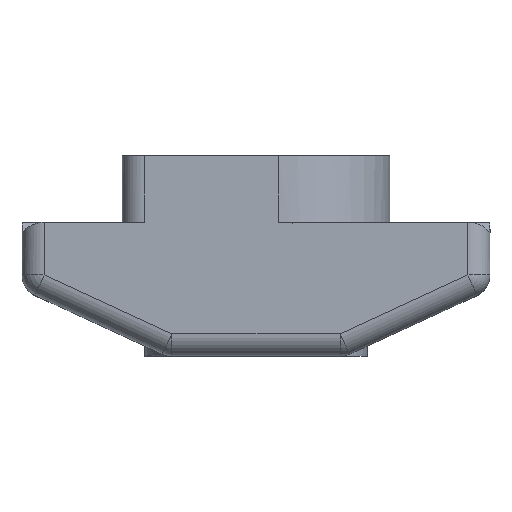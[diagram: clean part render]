
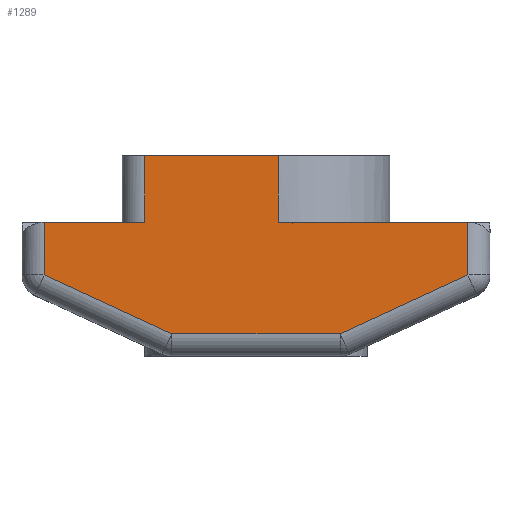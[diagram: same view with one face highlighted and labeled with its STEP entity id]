
A CAD part, top view. The second image highlights one B-rep face of the part: STEP entity #1289.
In plain terms, the highlighted planar face has unit normal (0, 0, 1).
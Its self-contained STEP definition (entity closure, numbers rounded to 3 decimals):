
#14 = VECTOR ( 'NONE', #2063, 1000. ) ;
#21 = DIRECTION ( 'NONE',  ( -1., 0., 0. ) ) ;
#43 = LINE ( 'NONE', #4442, #3854 ) ;
#66 = EDGE_CURVE ( 'NONE', #3958, #4539, #3195, .T. ) ;
#126 = LINE ( 'NONE', #1085, #4157 ) ;
#133 = CARTESIAN_POINT ( 'NONE',  ( -1.854, -4.017, 3. ) ) ;
#208 = ORIENTED_EDGE ( 'NONE', *, *, #4167, .T. ) ;
#262 = EDGE_CURVE ( 'NONE', #3142, #701, #2674, .T. ) ;
#310 = CARTESIAN_POINT ( 'NONE',  ( -1.89, -4., 3. ) ) ;
#349 = VECTOR ( 'NONE', #2018, 1000. ) ;
#374 = CARTESIAN_POINT ( 'NONE',  ( -2.5, -1.5, 3. ) ) ;
#398 = EDGE_CURVE ( 'NONE', #2930, #3435, #3818, .T. ) ;
#410 = VECTOR ( 'NONE', #552, 1000. ) ;
#552 = DIRECTION ( 'NONE',  ( -1., 0., 0. ) ) ;
#569 = EDGE_CURVE ( 'NONE', #701, #2972, #1991, .T. ) ;
#625 = EDGE_CURVE ( 'NONE', #2972, #4176, #126, .T. ) ;
#651 = CARTESIAN_POINT ( 'NONE',  ( 0.5, -1.5, 3. ) ) ;
#701 = VERTEX_POINT ( 'NONE', #310 ) ;
#826 = ORIENTED_EDGE ( 'NONE', *, *, #569, .T. ) ;
#855 = VECTOR ( 'NONE', #4008, 1000. ) ;
#885 = CARTESIAN_POINT ( 'NONE',  ( 4.75, -1.5, 3. ) ) ;
#889 = DIRECTION ( 'NONE',  ( 0., 0., -1. ) ) ;
#900 = VERTEX_POINT ( 'NONE', #2481 ) ;
#995 = ORIENTED_EDGE ( 'NONE', *, *, #398, .T. ) ;
#1053 = ORIENTED_EDGE ( 'NONE', *, *, #1138, .T. ) ;
#1057 = DIRECTION ( 'NONE',  ( 0.908, 0.419, 0. ) ) ;
#1062 = ORIENTED_EDGE ( 'NONE', *, *, #262, .T. ) ;
#1085 = CARTESIAN_POINT ( 'NONE',  ( 1.854, -4.017, 3. ) ) ;
#1088 = CARTESIAN_POINT ( 'NONE',  ( 3., -1.5, 3. ) ) ;
#1138 = EDGE_CURVE ( 'NONE', #4166, #2930, #3537, .T. ) ;
#1155 = EDGE_CURVE ( 'NONE', #900, #3142, #1824, .T. ) ;
#1266 = VECTOR ( 'NONE', #2550, 1000. ) ;
#1289 = ADVANCED_FACE ( 'NONE', ( #1657 ), #1929, .F. ) ;
#1346 = ORIENTED_EDGE ( 'NONE', *, *, #625, .T. ) ;
#1356 = DIRECTION ( 'NONE',  ( 0., 1., 0. ) ) ;
#1405 = EDGE_LOOP ( 'NONE', ( #1637, #1062, #826, #1346, #4753, #1053, #995, #208, #4518, #4648 ) ) ;
#1487 = CARTESIAN_POINT ( 'NONE',  ( -2.5, 0., 3. ) ) ;
#1605 = CARTESIAN_POINT ( 'NONE',  ( 3., 0., 3. ) ) ;
#1637 = ORIENTED_EDGE ( 'NONE', *, *, #1155, .T. ) ;
#1657 = FACE_OUTER_BOUND ( 'NONE', #1405, .T. ) ;
#1824 = LINE ( 'NONE', #3348, #4394 ) ;
#1897 = DIRECTION ( 'NONE',  ( 0., -1., 0. ) ) ;
#1929 = PLANE ( 'NONE',  #3586 ) ;
#1978 = DIRECTION ( 'NONE',  ( -1., 0., 0. ) ) ;
#1991 = LINE ( 'NONE', #4253, #14 ) ;
#1995 = CARTESIAN_POINT ( 'NONE',  ( 0., 0., 3. ) ) ;
#2018 = DIRECTION ( 'NONE',  ( 0., 1., 0. ) ) ;
#2026 = CARTESIAN_POINT ( 'NONE',  ( 4.75, -2.68, 3. ) ) ;
#2063 = DIRECTION ( 'NONE',  ( 1., 0., 0. ) ) ;
#2112 = VECTOR ( 'NONE', #1356, 1000. ) ;
#2317 = LINE ( 'NONE', #3474, #349 ) ;
#2481 = CARTESIAN_POINT ( 'NONE',  ( -4.75, -1.5, 3. ) ) ;
#2550 = DIRECTION ( 'NONE',  ( 0., -1., 0. ) ) ;
#2674 = LINE ( 'NONE', #133, #4455 ) ;
#2930 = VERTEX_POINT ( 'NONE', #651 ) ;
#2972 = VERTEX_POINT ( 'NONE', #4262 ) ;
#3085 = CARTESIAN_POINT ( 'NONE',  ( -4.75, -2.68, 3. ) ) ;
#3142 = VERTEX_POINT ( 'NONE', #3085 ) ;
#3195 = LINE ( 'NONE', #1487, #1266 ) ;
#3345 = CARTESIAN_POINT ( 'NONE',  ( -2.5, 0., 3. ) ) ;
#3348 = CARTESIAN_POINT ( 'NONE',  ( -4.75, 0., 3. ) ) ;
#3435 = VERTEX_POINT ( 'NONE', #4579 ) ;
#3438 = DIRECTION ( 'NONE',  ( 0.908, -0.419, 0. ) ) ;
#3445 = EDGE_CURVE ( 'NONE', #4176, #4166, #2317, .T. ) ;
#3474 = CARTESIAN_POINT ( 'NONE',  ( 4.75, 0., 3. ) ) ;
#3519 = CARTESIAN_POINT ( 'NONE',  ( 0.5, 0., 3. ) ) ;
#3537 = LINE ( 'NONE', #1088, #855 ) ;
#3586 = AXIS2_PLACEMENT_3D ( 'NONE', #1995, #889, #1978 ) ;
#3793 = LINE ( 'NONE', #1605, #410 ) ;
#3818 = LINE ( 'NONE', #3519, #2112 ) ;
#3854 = VECTOR ( 'NONE', #21, 1000. ) ;
#3958 = VERTEX_POINT ( 'NONE', #3345 ) ;
#4008 = DIRECTION ( 'NONE',  ( -1., 0., 0. ) ) ;
#4157 = VECTOR ( 'NONE', #1057, 1000. ) ;
#4166 = VERTEX_POINT ( 'NONE', #885 ) ;
#4167 = EDGE_CURVE ( 'NONE', #3435, #3958, #3793, .T. ) ;
#4176 = VERTEX_POINT ( 'NONE', #2026 ) ;
#4253 = CARTESIAN_POINT ( 'NONE',  ( 0., -4., 3. ) ) ;
#4262 = CARTESIAN_POINT ( 'NONE',  ( 1.89, -4., 3. ) ) ;
#4394 = VECTOR ( 'NONE', #1897, 1000. ) ;
#4442 = CARTESIAN_POINT ( 'NONE',  ( -3., -1.5, 3. ) ) ;
#4455 = VECTOR ( 'NONE', #3438, 1000. ) ;
#4518 = ORIENTED_EDGE ( 'NONE', *, *, #66, .T. ) ;
#4522 = EDGE_CURVE ( 'NONE', #4539, #900, #43, .T. ) ;
#4539 = VERTEX_POINT ( 'NONE', #374 ) ;
#4579 = CARTESIAN_POINT ( 'NONE',  ( 0.5, 0., 3. ) ) ;
#4648 = ORIENTED_EDGE ( 'NONE', *, *, #4522, .T. ) ;
#4753 = ORIENTED_EDGE ( 'NONE', *, *, #3445, .T. ) ;
